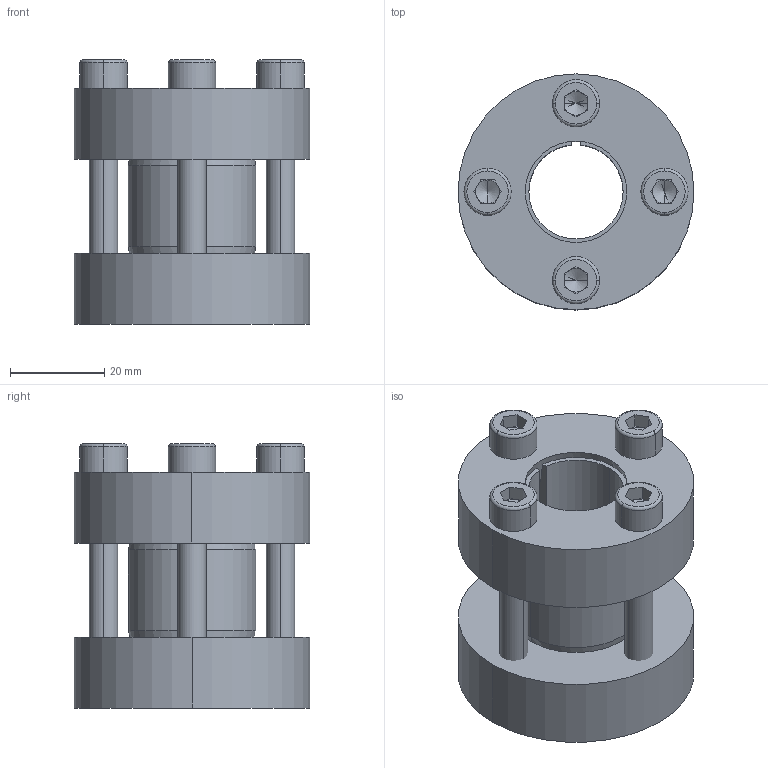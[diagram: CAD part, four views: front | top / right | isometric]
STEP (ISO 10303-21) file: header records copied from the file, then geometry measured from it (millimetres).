
FILE_DESCRIPTION (( 'STEP AP214' ), '1' );
FILE_NAME ('CONEX-M-20x50.step', '2013-04-06T13:25:05', ( 'Pc' ), ( '' ), 'SwSTEP 2.0', 'SolidWorks 2013', '' );
FILE_SCHEMA (( 'AUTOMOTIVE_DESIGN' ));
Length unit declared in the file: millimetre
Products named in the file (1): CONEX-M-20x50
Bounding box: 50 x 50 x 55.99 mm (x, y, z)
Volume: 57357.8 mm3; surface area: 26687.2 mm2
Topology: 7 solids, 7 shells, 152 faces, 342 edges, 204 vertices
Faces by surface type: plane 68, cylinder 42, cone 26, torus 16
Entity records: 5991 total; most frequent: DIRECTION 798, CARTESIAN_POINT 718, ORIENTED_EDGE 668, EDGE_CURVE 334, AXIS2_PLACEMENT_3D 315, VERTEX_POINT 204, EDGE_LOOP 180, LINE 168
